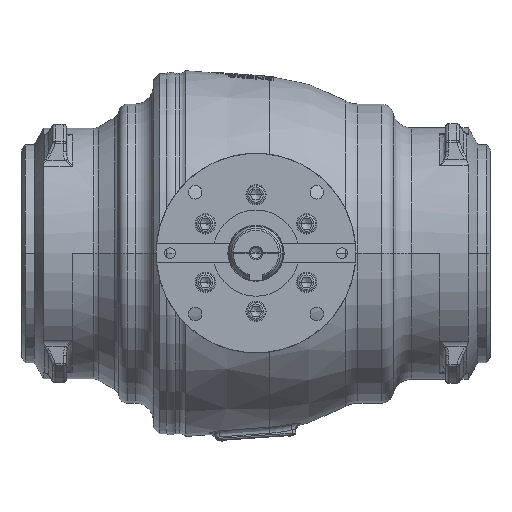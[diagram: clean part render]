
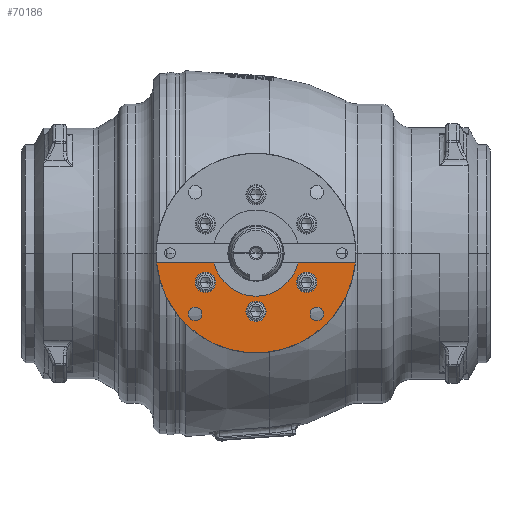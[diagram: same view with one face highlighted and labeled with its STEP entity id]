
A CAD part, top view. The second image highlights one B-rep face of the part: STEP entity #70186.
In plain terms, the highlighted planar face has unit normal (0, 0, 1).
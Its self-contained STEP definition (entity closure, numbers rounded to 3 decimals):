
#14094=DIRECTION('',(-1.,0.,0.));
#14095=VECTOR('',#14094,93.409);
#14096=CARTESIAN_POINT('',(161.71,-16.,443.));
#14097=LINE('',#14096,#14095);
#14098=CARTESIAN_POINT('',(0.,0.,443.));
#14099=DIRECTION('',(0.,0.,-1.));
#14100=DIRECTION('',(0.995,-0.098,0.));
#14101=AXIS2_PLACEMENT_3D('',#14098,#14099,#14100);
#14103=DIRECTION('',(-1.,0.,0.));
#14104=VECTOR('',#14103,93.409);
#14105=CARTESIAN_POINT('',(-68.301,-16.,443.));
#14106=LINE('',#14105,#14104);
#14107=CARTESIAN_POINT('',(82.272,-47.5,443.));
#14108=DIRECTION('',(0.,0.,-1.));
#14109=DIRECTION('',(1.,0.,0.));
#14110=AXIS2_PLACEMENT_3D('',#14107,#14108,#14109);
#14112=CARTESIAN_POINT('',(82.272,-47.5,443.));
#14113=DIRECTION('',(0.,0.,-1.));
#14114=DIRECTION('',(-1.,0.,0.));
#14115=AXIS2_PLACEMENT_3D('',#14112,#14113,#14114);
#14117=CARTESIAN_POINT('',(0.,-95.,443.));
#14118=DIRECTION('',(0.,0.,-1.));
#14119=DIRECTION('',(1.,0.,0.));
#14120=AXIS2_PLACEMENT_3D('',#14117,#14118,#14119);
#14122=CARTESIAN_POINT('',(0.,-95.,443.));
#14123=DIRECTION('',(0.,0.,-1.));
#14124=DIRECTION('',(-1.,0.,0.));
#14125=AXIS2_PLACEMENT_3D('',#14122,#14123,#14124);
#14127=CARTESIAN_POINT('',(-82.272,-47.5,443.));
#14128=DIRECTION('',(0.,0.,-1.));
#14129=DIRECTION('',(1.,0.,0.));
#14130=AXIS2_PLACEMENT_3D('',#14127,#14128,#14129);
#14132=CARTESIAN_POINT('',(-82.272,-47.5,443.));
#14133=DIRECTION('',(0.,0.,-1.));
#14134=DIRECTION('',(-1.,0.,0.));
#14135=AXIS2_PLACEMENT_3D('',#14132,#14133,#14134);
#14137=CARTESIAN_POINT('',(98.995,-98.995,443.));
#14138=DIRECTION('',(0.,0.,1.));
#14139=DIRECTION('',(-1.,0.,0.));
#14140=AXIS2_PLACEMENT_3D('',#14137,#14138,#14139);
#14142=CARTESIAN_POINT('',(98.995,-98.995,443.));
#14143=DIRECTION('',(0.,0.,1.));
#14144=DIRECTION('',(1.,0.,0.));
#14145=AXIS2_PLACEMENT_3D('',#14142,#14143,#14144);
#14147=CARTESIAN_POINT('',(-98.995,-98.995,443.));
#14148=DIRECTION('',(0.,0.,1.));
#14149=DIRECTION('',(-1.,0.,0.));
#14150=AXIS2_PLACEMENT_3D('',#14147,#14148,#14149);
#14152=CARTESIAN_POINT('',(-98.995,-98.995,443.));
#14153=DIRECTION('',(0.,0.,1.));
#14154=DIRECTION('',(1.,0.,0.));
#14155=AXIS2_PLACEMENT_3D('',#14152,#14153,#14154);
#14187=CARTESIAN_POINT('',(0.,0.,443.));
#14188=DIRECTION('',(0.,0.,-1.));
#14189=DIRECTION('',(0.974,-0.228,0.));
#14190=AXIS2_PLACEMENT_3D('',#14187,#14188,#14189);
#34451=CARTESIAN_POINT('',(161.71,-16.,443.));
#34453=VERTEX_POINT('',#34451);
#34455=CARTESIAN_POINT('',(-161.71,-16.,443.));
#34457=VERTEX_POINT('',#34455);
#34463=CARTESIAN_POINT('',(68.301,-16.,443.));
#34464=VERTEX_POINT('',#34463);
#34465=CARTESIAN_POINT('',(-68.301,-16.,443.));
#34466=VERTEX_POINT('',#34465);
#34535=CARTESIAN_POINT('',(-65.772,-47.5,443.));
#34536=CARTESIAN_POINT('',(-98.772,-47.5,443.));
#34537=VERTEX_POINT('',#34535);
#34538=VERTEX_POINT('',#34536);
#34551=CARTESIAN_POINT('',(87.995,-98.995,443.));
#34552=VERTEX_POINT('',#34551);
#34553=CARTESIAN_POINT('',(109.995,-98.995,443.));
#34554=VERTEX_POINT('',#34553);
#34567=CARTESIAN_POINT('',(-109.995,-98.995,443.));
#34568=CARTESIAN_POINT('',(-87.995,-98.995,443.));
#34569=VERTEX_POINT('',#34567);
#34570=VERTEX_POINT('',#34568);
#34623=CARTESIAN_POINT('',(16.5,-95.,443.));
#34624=CARTESIAN_POINT('',(-16.5,-95.,443.));
#34625=VERTEX_POINT('',#34623);
#34626=VERTEX_POINT('',#34624);
#34631=CARTESIAN_POINT('',(98.772,-47.5,443.));
#34632=CARTESIAN_POINT('',(65.772,-47.5,443.));
#34633=VERTEX_POINT('',#34631);
#34634=VERTEX_POINT('',#34632);
#70143=CARTESIAN_POINT('',(0.,0.,443.));
#70144=DIRECTION('',(0.,0.,-1.));
#70145=DIRECTION('',(-1.,0.,0.));
#70146=AXIS2_PLACEMENT_3D('',#70143,#70144,#70145);
#70147=PLANE('',#70146);
#70148=ORIENTED_EDGE('',*,*,#70130,.F.);
#70149=ORIENTED_EDGE('',*,*,#70119,.T.);
#70151=ORIENTED_EDGE('',*,*,#70150,.F.);
#70153=ORIENTED_EDGE('',*,*,#70152,.F.);
#70154=EDGE_LOOP('',(#70148,#70149,#70151,#70153));
#70155=FACE_OUTER_BOUND('',#70154,.F.);
#70157=ORIENTED_EDGE('',*,*,#70156,.F.);
#70159=ORIENTED_EDGE('',*,*,#70158,.F.);
#70160=EDGE_LOOP('',(#70157,#70159));
#70161=FACE_BOUND('',#70160,.F.);
#70163=ORIENTED_EDGE('',*,*,#70162,.F.);
#70165=ORIENTED_EDGE('',*,*,#70164,.F.);
#70166=EDGE_LOOP('',(#70163,#70165));
#70167=FACE_BOUND('',#70166,.F.);
#70169=ORIENTED_EDGE('',*,*,#70168,.F.);
#70171=ORIENTED_EDGE('',*,*,#70170,.F.);
#70172=EDGE_LOOP('',(#70169,#70171));
#70173=FACE_BOUND('',#70172,.F.);
#70175=ORIENTED_EDGE('',*,*,#70174,.T.);
#70177=ORIENTED_EDGE('',*,*,#70176,.T.);
#70178=EDGE_LOOP('',(#70175,#70177));
#70179=FACE_BOUND('',#70178,.F.);
#70181=ORIENTED_EDGE('',*,*,#70180,.T.);
#70183=ORIENTED_EDGE('',*,*,#70182,.T.);
#70184=EDGE_LOOP('',(#70181,#70183));
#70185=FACE_BOUND('',#70184,.F.);
#70186=ADVANCED_FACE('',(#70155,#70161,#70167,#70173,#70179,#70185),#70147,.F.);
#14102=CIRCLE('',#14101,162.5);
#14111=CIRCLE('',#14110,16.5);
#14116=CIRCLE('',#14115,16.5);
#14121=CIRCLE('',#14120,16.5);
#14126=CIRCLE('',#14125,16.5);
#14131=CIRCLE('',#14130,16.5);
#14136=CIRCLE('',#14135,16.5);
#14141=CIRCLE('',#14140,11.);
#14146=CIRCLE('',#14145,11.);
#14151=CIRCLE('',#14150,11.);
#14156=CIRCLE('',#14155,11.);
#14191=CIRCLE('',#14190,70.15);
#70119=EDGE_CURVE('',#34453,#34457,#14102,.T.);
#70130=EDGE_CURVE('',#34453,#34464,#14097,.T.);
#70150=EDGE_CURVE('',#34466,#34457,#14106,.T.);
#70152=EDGE_CURVE('',#34464,#34466,#14191,.T.);
#70156=EDGE_CURVE('',#34633,#34634,#14111,.T.);
#70158=EDGE_CURVE('',#34634,#34633,#14116,.T.);
#70162=EDGE_CURVE('',#34625,#34626,#14121,.T.);
#70164=EDGE_CURVE('',#34626,#34625,#14126,.T.);
#70168=EDGE_CURVE('',#34537,#34538,#14131,.T.);
#70170=EDGE_CURVE('',#34538,#34537,#14136,.T.);
#70174=EDGE_CURVE('',#34552,#34554,#14141,.T.);
#70176=EDGE_CURVE('',#34554,#34552,#14146,.T.);
#70180=EDGE_CURVE('',#34569,#34570,#14151,.T.);
#70182=EDGE_CURVE('',#34570,#34569,#14156,.T.);
